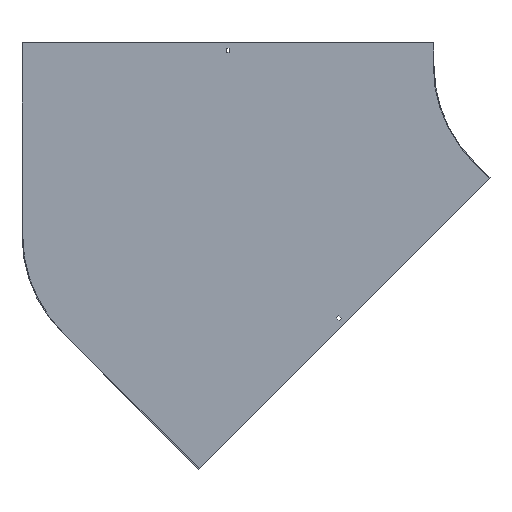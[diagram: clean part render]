
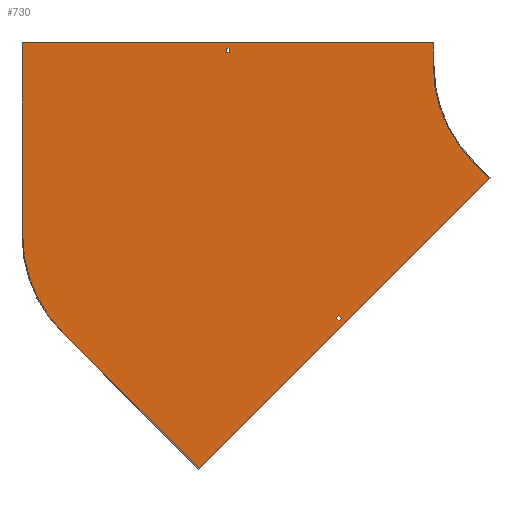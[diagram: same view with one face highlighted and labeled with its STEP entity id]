
A CAD part, front view. The second image highlights one B-rep face of the part: STEP entity #730.
In plain terms, the highlighted planar face has unit normal (0, -1, 0).
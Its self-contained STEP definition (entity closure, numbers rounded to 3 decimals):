
#16 = CARTESIAN_POINT ( 'NONE',  ( -1200., -1.5, -372.792 ) ) ;
#22 = PLANE ( 'NONE',  #249 ) ;
#26 = VERTEX_POINT ( 'NONE', #646 ) ;
#32 = AXIS2_PLACEMENT_3D ( 'NONE', #695, #420, #690 ) ;
#52 = VERTEX_POINT ( 'NONE', #175 ) ;
#57 = EDGE_LOOP ( 'NONE', ( #705, #602, #654, #761, #470, #280, #711, #191 ) ) ;
#59 = DIRECTION ( 'NONE',  ( 0., 0., -1. ) ) ;
#65 = CARTESIAN_POINT ( 'NONE',  ( -528.032, -1.5, -528.032 ) ) ;
#66 = CARTESIAN_POINT ( 'NONE',  ( -175.716, -1.5, -246.427 ) ) ;
#74 = VECTOR ( 'NONE', #94, 1000. ) ;
#75 = VERTEX_POINT ( 'NONE', #161 ) ;
#88 = CARTESIAN_POINT ( 'NONE',  ( -746.75, -1.5, 29. ) ) ;
#94 = DIRECTION ( 'NONE',  ( 0., 0., 1. ) ) ;
#98 = ORIENTED_EDGE ( 'NONE', *, *, #105, .T. ) ;
#103 = FACE_OUTER_BOUND ( 'NONE', #57, .T. ) ;
#105 = EDGE_CURVE ( 'NONE', #718, #743, #844, .T. ) ;
#119 = CARTESIAN_POINT ( 'NONE',  ( -300., -1.5, 50. ) ) ;
#122 = VECTOR ( 'NONE', #601, 1000. ) ;
#124 = EDGE_CURVE ( 'NONE', #386, #253, #839, .T. ) ;
#134 = LINE ( 'NONE', #571, #533 ) ;
#142 = ORIENTED_EDGE ( 'NONE', *, *, #660, .F. ) ;
#143 = VECTOR ( 'NONE', #584, 1000. ) ;
#156 = VERTEX_POINT ( 'NONE', #16 ) ;
#158 = EDGE_CURVE ( 'NONE', #424, #606, #211, .T. ) ;
#159 = DIRECTION ( 'NONE',  ( 1., 0., 0. ) ) ;
#161 = CARTESIAN_POINT ( 'NONE',  ( -1112.132, -1.5, -584.924 ) ) ;
#167 = ORIENTED_EDGE ( 'NONE', *, *, #815, .F. ) ;
#175 = CARTESIAN_POINT ( 'NONE',  ( -300., -1.5, 0. ) ) ;
#177 = CARTESIAN_POINT ( 'NONE',  ( -1201.5, -1.5, 50. ) ) ;
#178 = LINE ( 'NONE', #791, #143 ) ;
#181 = VECTOR ( 'NONE', #811, 1000. ) ;
#182 = EDGE_CURVE ( 'NONE', #606, #75, #605, .T. ) ;
#186 = EDGE_LOOP ( 'NONE', ( #785, #749, #98, #514 ) ) ;
#191 = ORIENTED_EDGE ( 'NONE', *, *, #373, .F. ) ;
#197 = CIRCLE ( 'NONE', #685, 300. ) ;
#198 = EDGE_CURVE ( 'NONE', #748, #718, #539, .T. ) ;
#204 = CARTESIAN_POINT ( 'NONE',  ( -501.162, -1.5, -554.902 ) ) ;
#205 = EDGE_CURVE ( 'NONE', #743, #286, #745, .T. ) ;
#211 = LINE ( 'NONE', #66, #638 ) ;
#230 = CARTESIAN_POINT ( 'NONE',  ( -753.25, -1.5, 29. ) ) ;
#239 = CARTESIAN_POINT ( 'NONE',  ( -532.628, -1.5, -532.628 ) ) ;
#241 = EDGE_CURVE ( 'NONE', #52, #409, #783, .T. ) ;
#244 = CARTESIAN_POINT ( 'NONE',  ( 26.87, -1.5, -26.87 ) ) ;
#249 = AXIS2_PLACEMENT_3D ( 'NONE', #292, #820, #645 ) ;
#253 = VERTEX_POINT ( 'NONE', #204 ) ;
#269 = VERTEX_POINT ( 'NONE', #119 ) ;
#276 = CARTESIAN_POINT ( 'NONE',  ( -212.132, -1.5, -212.132 ) ) ;
#280 = ORIENTED_EDGE ( 'NONE', *, *, #391, .F. ) ;
#281 = CARTESIAN_POINT ( 'NONE',  ( -1200., -1.5, 50. ) ) ;
#284 = DIRECTION ( 'NONE',  ( 0., 0., 1. ) ) ;
#286 = VERTEX_POINT ( 'NONE', #471 ) ;
#292 = CARTESIAN_POINT ( 'NONE',  ( 0., -1.5, 0. ) ) ;
#295 = VECTOR ( 'NONE', #284, 1000. ) ;
#307 = EDGE_CURVE ( 'NONE', #156, #451, #700, .T. ) ;
#328 = LINE ( 'NONE', #528, #556 ) ;
#334 = LINE ( 'NONE', #177, #389 ) ;
#340 = DIRECTION ( 'NONE',  ( 1., 0., 0. ) ) ;
#342 = DIRECTION ( 'NONE',  ( -0.707, 0., -0.707 ) ) ;
#351 = DIRECTION ( 'NONE',  ( 0., 0., -1. ) ) ;
#366 = EDGE_CURVE ( 'NONE', #75, #156, #197, .T. ) ;
#373 = EDGE_CURVE ( 'NONE', #269, #52, #328, .T. ) ;
#376 = DIRECTION ( 'NONE',  ( -1., 0., 0. ) ) ;
#379 = FACE_BOUND ( 'NONE', #186, .T. ) ;
#382 = CARTESIAN_POINT ( 'NONE',  ( 0., -1.5, 29. ) ) ;
#386 = VERTEX_POINT ( 'NONE', #862 ) ;
#389 = VECTOR ( 'NONE', #340, 1000. ) ;
#391 = EDGE_CURVE ( 'NONE', #409, #424, #178, .T. ) ;
#409 = VERTEX_POINT ( 'NONE', #276 ) ;
#413 = CARTESIAN_POINT ( 'NONE',  ( -176.777, -1.5, -247.487 ) ) ;
#416 = EDGE_CURVE ( 'NONE', #26, #386, #699, .T. ) ;
#420 = DIRECTION ( 'NONE',  ( 0., -1., 0. ) ) ;
#424 = VERTEX_POINT ( 'NONE', #413 ) ;
#441 = VECTOR ( 'NONE', #509, 1000. ) ;
#451 = VERTEX_POINT ( 'NONE', #281 ) ;
#453 = EDGE_CURVE ( 'NONE', #286, #748, #134, .T. ) ;
#470 = ORIENTED_EDGE ( 'NONE', *, *, #158, .F. ) ;
#471 = CARTESIAN_POINT ( 'NONE',  ( -753.25, -1.5, 38. ) ) ;
#478 = CARTESIAN_POINT ( 'NONE',  ( -507.526, -1.5, -548.538 ) ) ;
#488 = CARTESIAN_POINT ( 'NONE',  ( -746.75, -1.5, 38. ) ) ;
#494 = LINE ( 'NONE', #696, #540 ) ;
#509 = DIRECTION ( 'NONE',  ( 0.707, 0., 0.707 ) ) ;
#514 = ORIENTED_EDGE ( 'NONE', *, *, #205, .T. ) ;
#528 = CARTESIAN_POINT ( 'NONE',  ( -300., -1.5, 50. ) ) ;
#529 = VECTOR ( 'NONE', #351, 1000. ) ;
#533 = VECTOR ( 'NONE', #159, 1000. ) ;
#539 = LINE ( 'NONE', #806, #529 ) ;
#540 = VECTOR ( 'NONE', #756, 1000. ) ;
#556 = VECTOR ( 'NONE', #594, 1000. ) ;
#564 = EDGE_CURVE ( 'NONE', #451, #269, #334, .T. ) ;
#565 = DIRECTION ( 'NONE',  ( 0.707, 0., -0.707 ) ) ;
#571 = CARTESIAN_POINT ( 'NONE',  ( 0., -1.5, 38. ) ) ;
#584 = DIRECTION ( 'NONE',  ( 0.707, 0., -0.707 ) ) ;
#586 = VERTEX_POINT ( 'NONE', #478 ) ;
#594 = DIRECTION ( 'NONE',  ( 0., 0., -1. ) ) ;
#599 = VECTOR ( 'NONE', #565, 1000. ) ;
#601 = DIRECTION ( 'NONE',  ( -0.707, 0., 0.707 ) ) ;
#602 = ORIENTED_EDGE ( 'NONE', *, *, #307, .F. ) ;
#605 = LINE ( 'NONE', #740, #181 ) ;
#606 = VERTEX_POINT ( 'NONE', #754 ) ;
#615 = VECTOR ( 'NONE', #376, 1000. ) ;
#629 = FACE_BOUND ( 'NONE', #817, .T. ) ;
#638 = VECTOR ( 'NONE', #342, 1000. ) ;
#643 = ORIENTED_EDGE ( 'NONE', *, *, #416, .F. ) ;
#645 = DIRECTION ( 'NONE',  ( 0., 0., -1. ) ) ;
#646 = CARTESIAN_POINT ( 'NONE',  ( -512.122, -1.5, -553.134 ) ) ;
#654 = ORIENTED_EDGE ( 'NONE', *, *, #366, .F. ) ;
#660 = EDGE_CURVE ( 'NONE', #253, #586, #818, .T. ) ;
#664 = DIRECTION ( 'NONE',  ( 0., 1., 0. ) ) ;
#685 = AXIS2_PLACEMENT_3D ( 'NONE', #715, #664, #59 ) ;
#690 = DIRECTION ( 'NONE',  ( 0., 0., -1. ) ) ;
#695 = CARTESIAN_POINT ( 'NONE',  ( 0., -1.5, 0. ) ) ;
#696 = CARTESIAN_POINT ( 'NONE',  ( 20.506, -1.5, -20.506 ) ) ;
#699 = LINE ( 'NONE', #239, #599 ) ;
#700 = LINE ( 'NONE', #827, #74 ) ;
#705 = ORIENTED_EDGE ( 'NONE', *, *, #564, .F. ) ;
#709 = ORIENTED_EDGE ( 'NONE', *, *, #124, .F. ) ;
#711 = ORIENTED_EDGE ( 'NONE', *, *, #241, .F. ) ;
#715 = CARTESIAN_POINT ( 'NONE',  ( -900., -1.5, -372.792 ) ) ;
#718 = VERTEX_POINT ( 'NONE', #88 ) ;
#730 = ADVANCED_FACE ( 'NONE', ( #629, #103, #379 ), #22, .T. ) ;
#740 = CARTESIAN_POINT ( 'NONE',  ( -813.173, -1.5, -883.883 ) ) ;
#743 = VERTEX_POINT ( 'NONE', #230 ) ;
#745 = LINE ( 'NONE', #799, #295 ) ;
#748 = VERTEX_POINT ( 'NONE', #488 ) ;
#749 = ORIENTED_EDGE ( 'NONE', *, *, #198, .T. ) ;
#754 = CARTESIAN_POINT ( 'NONE',  ( -813.173, -1.5, -883.883 ) ) ;
#756 = DIRECTION ( 'NONE',  ( -0.707, 0., -0.707 ) ) ;
#761 = ORIENTED_EDGE ( 'NONE', *, *, #182, .F. ) ;
#783 = CIRCLE ( 'NONE', #32, 300. ) ;
#785 = ORIENTED_EDGE ( 'NONE', *, *, #453, .T. ) ;
#791 = CARTESIAN_POINT ( 'NONE',  ( -212.132, -1.5, -212.132 ) ) ;
#799 = CARTESIAN_POINT ( 'NONE',  ( -753.25, -1.5, 0. ) ) ;
#806 = CARTESIAN_POINT ( 'NONE',  ( -746.75, -1.5, 0. ) ) ;
#811 = DIRECTION ( 'NONE',  ( -0.707, 0., 0.707 ) ) ;
#815 = EDGE_CURVE ( 'NONE', #586, #26, #494, .T. ) ;
#817 = EDGE_LOOP ( 'NONE', ( #142, #709, #643, #167 ) ) ;
#818 = LINE ( 'NONE', #65, #122 ) ;
#820 = DIRECTION ( 'NONE',  ( 0., -1., 0. ) ) ;
#827 = CARTESIAN_POINT ( 'NONE',  ( -1200., -1.5, -372.792 ) ) ;
#839 = LINE ( 'NONE', #244, #441 ) ;
#844 = LINE ( 'NONE', #382, #615 ) ;
#862 = CARTESIAN_POINT ( 'NONE',  ( -505.758, -1.5, -559.498 ) ) ;
